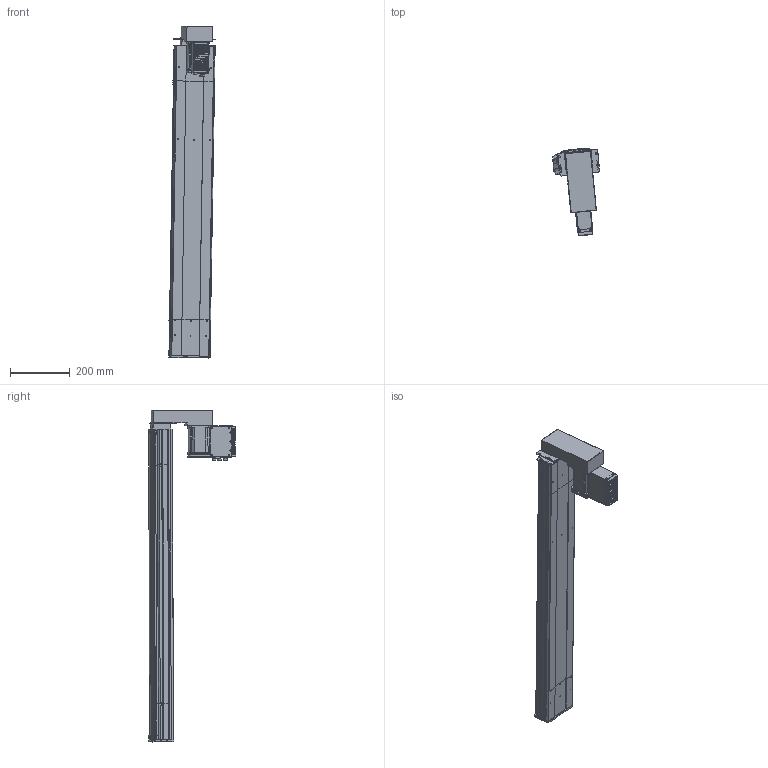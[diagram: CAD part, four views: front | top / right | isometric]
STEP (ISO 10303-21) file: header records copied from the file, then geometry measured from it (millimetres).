
FILE_DESCRIPTION (( 'STEP AP203' ), '1' );
FILE_NAME ('D14 TSH M4 BM L10 S800.STEP', '2012-10-11T12:10:58', ( '' ), ( '' ), 'SwSTEP 2.0', 'SolidWorks 2010', '' );
FILE_SCHEMA (( 'CONFIG_CONTROL_DESIGN' ));
Length unit declared in the file: millimetre
Products named in the file (22): Moteur_2; T犨e contre le moteur_2; Tôle latérale_2; Couvercle_2; Vis TF 3 torkx_2; plaque de  bout tail D14_Default_2; couvercle D14 head_Default_2; D14 TSH M4 BM L10 S800; corp head D14_Default_2; plaque de  bout head D14 MD_Default_2; corpl tail D14_Default_2; Sub D 9cts_2; T犨e fond_2; Connecteur rond D10 3cts_2; Tôle Arrière_2; Connecteur rond D12 4cts_2; Moteur 70BLDC90A_2; Colonnette_2; Radiateur_2; Pièce802; Pièce800; plaque de bout head D14 BM
Assembly tree (49 placements, depth 3):
  D14 TSH M4 BM L10 S800
    corp head D14_Default_2
    Pièce802
    plaque de bout head D14 BM
    Moteur_2
      Vis TF 3 torkx_2  x26
      T犨e fond_2
      Sub D 9cts_2
      Connecteur rond D10 3cts_2  x2
      Connecteur rond D12 4cts_2
      Colonnette_2
      Tôle latérale_2  x2
      Radiateur_2
      T犨e contre le moteur_2
      Moteur 70BLDC90A_2
      Tôle Arrière_2
      Couvercle_2
    Pièce800
    plaque de  bout tail D14_Default_2
    plaque de  bout head D14 MD_Default_2
    corpl tail D14_Default_2
    couvercle D14 head_Default_2  x2
Bounding box: 157.79 x 294.6 x 1114 mm (x, y, z)
Volume: 4333741.3 mm3; surface area: 1300513.7 mm2
Topology: 70 solids, 70 shells, 2415 faces, 6303 edges, 4155 vertices
Faces by surface type: plane 1300, cylinder 851, cone 134, bspline 130
Entity records: 64759 total; most frequent: CARTESIAN_POINT 20869, ORIENTED_EDGE 8564, DIRECTION 8203, EDGE_CURVE 4282, VECTOR 2853, LINE 2853, VERTEX_POINT 2829, AXIS2_PLACEMENT_3D 2675
